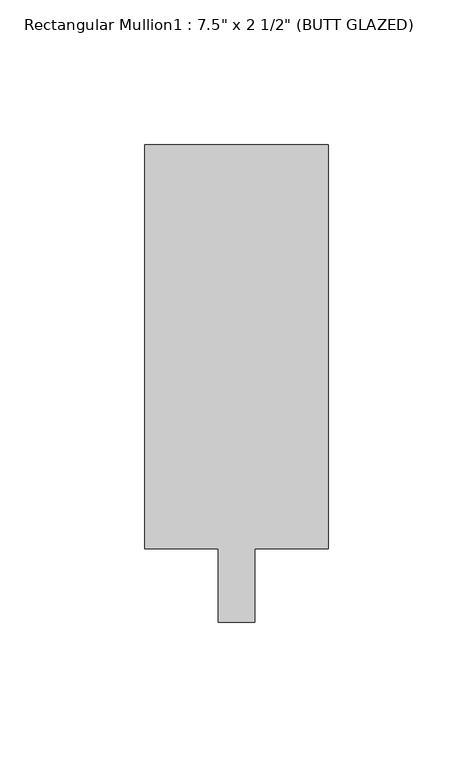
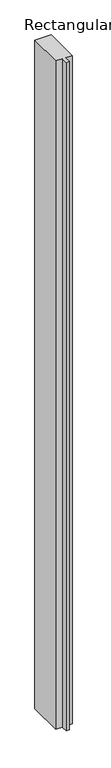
"""IFC4 building model written with IfcOpenShell, lengths in millimetres: member geometry."""

from ifc_helpers import new_model, si_unit, frame, origin, place, context, project, spatial, polyline, outline, extrude, source, transform, mapped, element, save


def member_eec3e92d(model_context):
    return source(origin(), model_context, "Body", "SweptSolid", [
        extrude(outline(polyline([(31.75, 165.1), (31.75, 25.4), (6.35, 25.4), (6.35, 0.0), (-6.35, 0.0), (-6.35, 25.4), (-31.75, 25.4), (-31.75, 165.1), (31.75, 165.1)])), frame((0.0, 0.0, -2743.1999994), z_axis=(0.0, 0.0, 1.0), x_axis=(1.0, 0.0, 0.0)), (0.0, 0.0, 1.0), 2743.1999994),
    ])


if __name__ == "__main__":
    model = new_model("IFC4")
    model_context = context("Model", 3, world=origin())
    ifc_project = project(units=[si_unit("LENGTHUNIT", "METRE", prefix="MILLI")], contexts=[model_context])
    site = spatial("IfcSite", under=ifc_project)
    building = spatial("IfcBuilding", under=site)
    placement = place(None, origin())
    member_shape = member_eec3e92d(model_context)
    element("IfcMember", 1, ObjectType="Rectangular Mullion1 : 7.5\" x 2 1/2\" (BUTT GLAZED)", at=placement, inside=building, context=model_context, shape_type="MappedRepresentation", body=[
        mapped(member_shape, transform((0.0, 0.0, 0.0), x_axis=(1.0, 0.0, 0.0), y_axis=(0.0, 1.0, 0.0), z_axis=(0.0, 0.0, 1.0))),
    ])
    save(model, "model.ifc")
